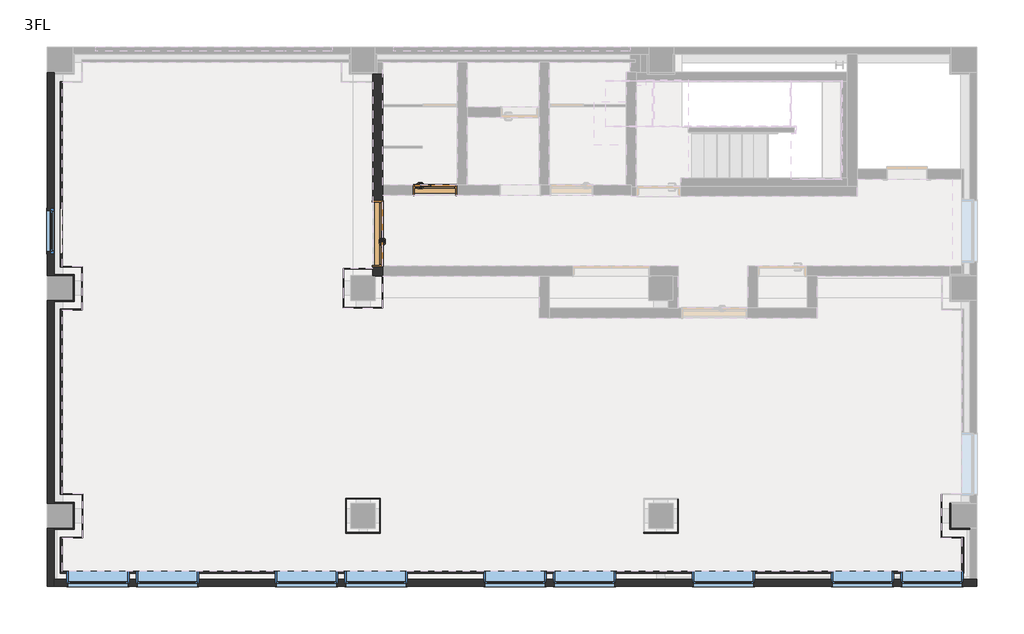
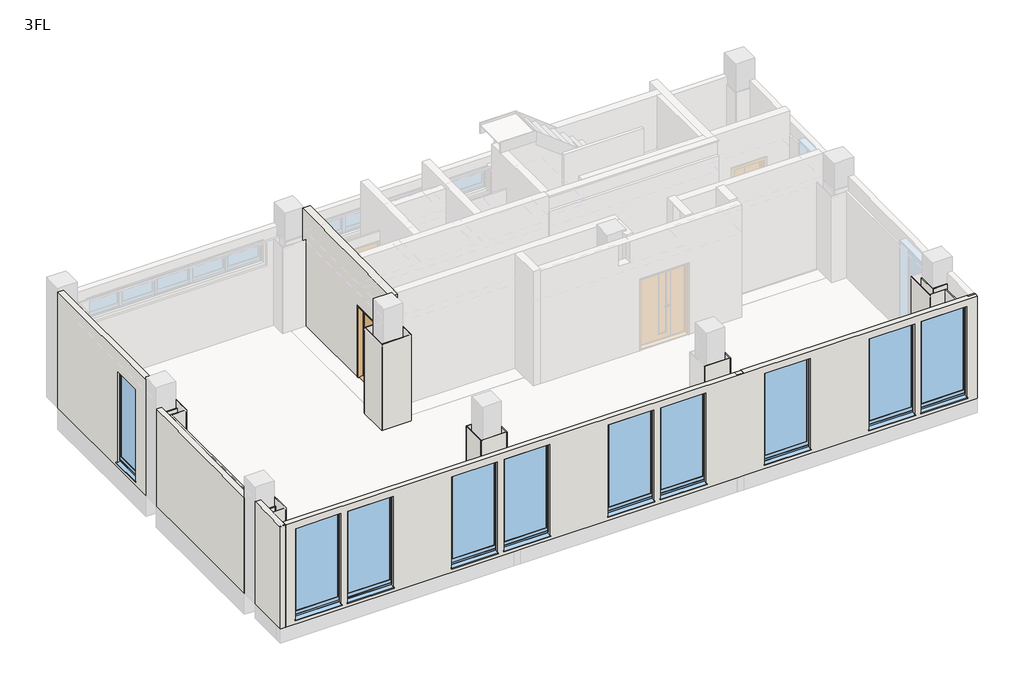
# One storey, part 1 of 4: 34 walls, 10 windows, 2 doors.
"""IFC4 building model written with IfcOpenShell, lengths in millimetres."""

from ifc_helpers import new_model, si_unit, frame, origin, place, context, project, spatial, polyline, outline, extrude, faceted_brep, transform, mapped, element, save
from components import door_c7ba6d99, door_a8025d8c, window_becbf3bb, window_02fdaeb4

model = new_model("IFC4")

# Units and contexts
model_context = context("Model", 3, world=origin())
ifc_project = project(units=[si_unit("LENGTHUNIT", "METRE", prefix="MILLI")], contexts=[model_context])

# Site, building, storey
site = spatial("IfcSite", under=ifc_project)
building = spatial("IfcBuilding", under=site)
storey = spatial("IfcBuildingStorey", under=building, Name="3FL", Elevation=6700.0)

# Doors
placement = place(None, origin())
door_shape = door_c7ba6d99(model_context)
element("IfcDoor", 1, ObjectType="140_片開扉_スリットガラリ付 : SD9_H2000W800", at=placement, inside=storey, context=model_context, shape_type="MappedRepresentation", body=[
    mapped(door_shape, transform((7540.0, 6565.5, 6700.0), x_axis=(1.0, 0.0, 0.0), y_axis=(0.0, 1.0, 0.0), z_axis=(0.0, 0.0, 1.0))),
])
door_2_shape = door_a8025d8c(model_context)
element("IfcDoor", 2, ObjectType="C_親子扉_スリット窓付_パネル : SD8_W1250XH2000", at=placement, inside=storey, context=model_context, shape_type="MappedRepresentation", body=[
    mapped(door_2_shape, transform((6390.0, 5687.5, 6700.0), x_axis=(0.0, 1.0, 0.0), y_axis=(-1.0, 0.0, 0.0), z_axis=(0.0, 0.0, 1.0))),
])

# Walls
element("IfcWall", 3, ObjectType="•_RC120+押出法ポリスチレンフォーム1種 t25", at=placement, inside=storey, context=model_context, shape_type="Brep", body=[
    faceted_brep([(-270.0, 4340.0, 6550.0), (-270.0, 250.0, 6550.0), (-270.0, 250.0, 9266.0848683), (-270.0, 4340.0, 9307.9360311), (-125.0, 250.0, 6550.0), (-125.0, 274.9999201, 6550.0), (-125.0, 4314.9999543, 6550.0), (-125.0, 4340.0, 6550.0), (-125.0, 4340.0, 9150.0), (-125.0, 4340.0, 9307.9360311), (-125.0, 250.0, 9266.0848683), (-125.0, 250.0, 9150.0)], [[[0, 1, 2, 3]], [[4, 5, 6, 7, 8, 9, 10, 11]], [[0, 7, 6, 5, 4, 1]], [[7, 0, 3, 9, 8]], [[1, 4, 11, 10, 2]], [[3, 2, 10, 9]]]),
    faceted_brep([(-270.0, -250.0, 6550.0), (-270.0, -1242.7, 6550.0), (-270.0, -1420.0, 6550.0), (-270.0, -1420.0, 9460.0), (-270.0, -1406.0137522, 9460.0), (-270.0, -1405.9027414, 9449.1512175), (-270.0, -250.0, 9460.9790595), (-125.0, -1420.0, 6550.0), (-125.0, -1275.0, 6550.0), (-125.0, -275.0000858, 6550.0), (-125.0, -250.0, 6550.0), (-125.0, -250.0, 9150.0), (-125.0, -250.0, 9460.9790595), (-125.0, -1405.9027414, 9449.1512175), (-125.0, -1406.0137522, 9460.0), (-125.0, -1420.0, 9460.0)], [[[0, 1, 2, 3, 4, 5, 6]], [[7, 8, 9, 10, 11, 12, 13, 14, 15]], [[7, 2, 1, 0, 10, 9, 8]], [[2, 7, 15, 3]], [[10, 0, 6, 12, 11]], [[13, 5, 4, 14]], [[5, 13, 12, 6]], [[4, 3, 15, 14]]]),
    faceted_brep([(-270.0, 8930.0, 9850.0), (-270.0, 8930.0, 6550.0), (-270.0, 4840.0, 6550.0), (-270.0, 4840.0, 9850.0), (-270.0, 5330.0, 6675.0), (-270.0, 6150.0, 6675.0), (-270.0, 6150.0, 6730.0), (-270.0, 6150.0, 9260.0), (-270.0, 5330.0, 9260.0), (-270.0, 5330.0, 6730.0), (-125.0, 8930.0, 6550.0), (-125.0, 8930.0, 9150.0), (-125.0, 8930.0, 9850.0), (-125.0, 4840.0, 9850.0), (-125.0, 4840.0, 9150.0), (-125.0, 4840.0, 6550.0), (-125.0, 4865.0, 6550.0), (-125.0, 8905.000056, 6550.0), (-125.0, 6200.0, 9310.0), (-125.0, 6200.0, 6745.0), (-125.0, 5280.0, 6745.0), (-125.0, 5280.0, 9310.0), (-140.0, 8930.0, 9850.0), (-140.0, 4840.0, 9850.0), (-210.0, 6200.0, 9310.0), (-210.0, 6200.0, 6675.0), (-140.0, 6200.0, 6675.0), (-140.0, 6200.0, 6745.0), (-140.0, 5280.0, 6745.0), (-140.0, 5280.0, 6675.0), (-210.0, 5280.0, 6675.0), (-210.0, 5280.0, 9310.0), (-210.0, 6150.0, 6675.0), (-210.0, 5330.0, 6675.0), (-210.0, 5330.0, 9260.0), (-210.0, 6150.0, 9260.0)], [[[0, 1, 2, 3], [4, 5, 6, 7, 8, 9]], [[10, 11, 12, 13, 14, 15, 16, 17], [18, 19, 20, 21]], [[1, 10, 17, 16, 15, 2]], [[12, 22, 0, 3, 23, 13]], [[24, 25, 26, 27, 19, 18]], [[28, 29, 30, 31, 21, 20]], [[27, 28, 20, 19]], [[31, 24, 18, 21]], [[26, 25, 32, 5, 4, 33, 30, 29]], [[25, 24, 31, 30, 33, 34, 35, 32]], [[27, 26, 29, 28]], [[5, 32, 35, 7, 6]], [[33, 4, 9, 8, 34]], [[35, 34, 8, 7]], [[12, 11, 10, 1, 0, 22]], [[15, 14, 13, 23, 3, 2]]]),
])
element("IfcWall", 4, ObjectType="•_RC120+押出法ポリスチレンフォーム1種 t25", at=placement, inside=storey, context=model_context, shape_type="Brep", body=[
    faceted_brep([(-125.0, -1420.0, 6550.0), (6000.0, -1420.0, 6550.0), (6180.0, -1420.0, 6550.0), (12000.0, -1420.0, 6550.0), (12180.0, -1420.0, 6550.0), (18450.0, -1420.0, 6550.0), (18450.0, -1420.0, 9460.0), (11961.9000006, -1420.0, 9460.0), (5987.1460725, -1420.0, 9460.0), (-125.0, -1420.0, 9460.0), (1360.0, -1420.0, 6675.0), (140.0, -1420.0, 6675.0), (140.0, -1420.0, 6730.0), (140.0, -1420.0, 9260.0), (1360.0, -1420.0, 9260.0), (1360.0, -1420.0, 6730.0), (2760.0, -1420.0, 6675.0), (1540.0, -1420.0, 6675.0), (1540.0, -1420.0, 9260.0), (2760.0, -1420.0, 9260.0), (5560.0, -1420.0, 6675.0), (4340.0, -1420.0, 6675.0), (4340.0, -1420.0, 9260.0), (5560.0, -1420.0, 9260.0), (6960.0, -1420.0, 6675.0), (5740.0, -1420.0, 6675.0), (5740.0, -1420.0, 9260.0), (6960.0, -1420.0, 9260.0), (9760.0, -1420.0, 6675.0), (8540.0, -1420.0, 6675.0), (8540.0, -1420.0, 9260.0), (9760.0, -1420.0, 9260.0), (11160.0, -1420.0, 6675.0), (9940.0, -1420.0, 6675.0), (9940.0, -1420.0, 9260.0), (11160.0, -1420.0, 9260.0), (16760.04, -1420.0, 6675.0), (15540.04, -1420.0, 6675.0), (15540.04, -1420.0, 9260.0), (16760.04, -1420.0, 9260.0), (18159.9997717, -1420.0, 6675.0), (16939.9997717, -1420.0, 6675.0), (16939.9997717, -1420.0, 9260.0), (18159.9997717, -1420.0, 9260.0), (13960.0, -1420.0, 6675.0), (12740.0, -1420.0, 6675.0), (12740.0, -1420.0, 9260.0), (13960.0, -1420.0, 9260.0), (18450.0, -1275.0, 6550.0), (18305.0, -1275.0, 6550.0), (-125.0, -1275.0, 6550.0), (-125.0, -1275.0, 9460.0), (12000.0, -1275.0, 9460.0), (12000.0, -1275.0, 9450.3844841), (12180.0, -1275.0, 9450.3844841), (12180.0, -1275.0, 9460.0), (18250.0, -1275.0, 9460.0), (18250.0, -1275.0, 9451.1960208), (18305.0, -1275.0, 9451.1960208), (18450.0, -1275.0, 9451.1960208), (1380.0, -1275.0, 9280.0), (120.0, -1275.0, 9280.0), (120.0, -1275.0, 6675.0), (1380.0, -1275.0, 6675.0), (1520.0, -1275.0, 9280.0), (1520.0, -1275.0, 6675.0), (2780.0, -1275.0, 6675.0), (2780.0, -1275.0, 9280.0), (4320.0, -1275.0, 9280.0), (4320.0, -1275.0, 6675.0), (5580.0, -1275.0, 6675.0), (5580.0, -1275.0, 9280.0), (5720.0, -1275.0, 9280.0), (5720.0, -1275.0, 6675.0), (6980.0, -1275.0, 6675.0), (6980.0, -1275.0, 9280.0), (8520.0, -1275.0, 9280.0), (8520.0, -1275.0, 6675.0), (9780.0, -1275.0, 6675.0), (9780.0, -1275.0, 9280.0), (9920.0, -1275.0, 9280.0), (9920.0, -1275.0, 6675.0), (11180.0, -1275.0, 6675.0), (11180.0, -1275.0, 9280.0), (15520.04, -1275.0, 9280.0), (15520.04, -1275.0, 6675.0), (16780.04, -1275.0, 6675.0), (16780.04, -1275.0, 9280.0), (16919.9997717, -1275.0, 9280.0), (16919.9997717, -1275.0, 6675.0), (18179.9997717, -1275.0, 6675.0), (18179.9997717, -1275.0, 9280.0), (12720.0, -1275.0, 9280.0), (12720.0, -1275.0, 6675.0), (13980.0, -1275.0, 6675.0), (13980.0, -1275.0, 9280.0), (-125.0, -1406.0137522, 9460.0), (1380.0, -1360.0, 9280.0), (120.0, -1360.0, 9280.0), (120.0, -1360.0, 6675.0), (1380.0, -1360.0, 6675.0), (140.0, -1360.0, 6675.0), (1360.0, -1360.0, 6675.0), (1360.0, -1360.0, 9260.0), (140.0, -1360.0, 9260.0), (1520.0, -1360.0, 6675.0), (1540.0, -1360.0, 6675.0), (2760.0, -1360.0, 6675.0), (2780.0, -1360.0, 6675.0), (1520.0, -1360.0, 9280.0), (2780.0, -1360.0, 9280.0), (2760.0, -1360.0, 9260.0), (1540.0, -1360.0, 9260.0), (4320.0, -1360.0, 6675.0), (4340.0, -1360.0, 6675.0), (5560.0, -1360.0, 6675.0), (5580.0, -1360.0, 6675.0), (4320.0, -1360.0, 9280.0), (5580.0, -1360.0, 9280.0), (5560.0, -1360.0, 9260.0), (4340.0, -1360.0, 9260.0), (5720.0, -1360.0, 6675.0), (5740.0, -1360.0, 6675.0), (6960.0, -1360.0, 6675.0), (6980.0, -1360.0, 6675.0), (5720.0, -1360.0, 9280.0), (6980.0, -1360.0, 9280.0), (6960.0, -1360.0, 9260.0), (5740.0, -1360.0, 9260.0), (8520.0, -1360.0, 6675.0), (8540.0, -1360.0, 6675.0), (9760.0, -1360.0, 6675.0), (9780.0, -1360.0, 6675.0), (8520.0, -1360.0, 9280.0), (9780.0, -1360.0, 9280.0), (9760.0, -1360.0, 9260.0), (8540.0, -1360.0, 9260.0), (9920.0, -1360.0, 6675.0), (9940.0, -1360.0, 6675.0), (11160.0, -1360.0, 6675.0), (11180.0, -1360.0, 6675.0), (9920.0, -1360.0, 9280.0), (11180.0, -1360.0, 9280.0), (11160.0, -1360.0, 9260.0), (9940.0, -1360.0, 9260.0), (15520.04, -1360.0, 6675.0), (15540.04, -1360.0, 6675.0), (16760.04, -1360.0, 6675.0), (16780.04, -1360.0, 6675.0), (15520.04, -1360.0, 9280.0), (16780.04, -1360.0, 9280.0), (16760.04, -1360.0, 9260.0), (15540.04, -1360.0, 9260.0), (16919.9997717, -1360.0, 6675.0), (16939.9997717, -1360.0, 6675.0), (18159.9997717, -1360.0, 6675.0), (18179.9997717, -1360.0, 6675.0), (16919.9997717, -1360.0, 9280.0), (18179.9997717, -1360.0, 9280.0), (18159.9997717, -1360.0, 9260.0), (16939.9997717, -1360.0, 9260.0), (12720.0, -1360.0, 6675.0), (12740.0, -1360.0, 6675.0), (13960.0, -1360.0, 6675.0), (13980.0, -1360.0, 6675.0), (12720.0, -1360.0, 9280.0), (13980.0, -1360.0, 9280.0), (13960.0, -1360.0, 9260.0), (12740.0, -1360.0, 9260.0), (12180.0, -1406.4091607, 9449.2147387), (12000.0, -1406.4091607, 9449.2147387), (12000.0, -1406.5051662, 9460.0), (12180.0, -1406.5051662, 9460.0), (18450.0, -1330.8043055, 9460.0), (18250.0, -1330.8043055, 9460.0), (18450.0, -1330.7112801, 9450.6421976), (18250.0, -1330.7112801, 9450.6421976)], [[[0, 1, 2, 3, 4, 5, 6, 7, 8, 9], [10, 11, 12, 13, 14, 15], [16, 17, 18, 19], [20, 21, 22, 23], [24, 25, 26, 27], [28, 29, 30, 31], [32, 33, 34, 35], [36, 37, 38, 39], [40, 41, 42, 43], [44, 45, 46, 47]], [[48, 49, 50, 51, 52, 53, 54, 55, 56, 57, 58, 59], [60, 61, 62, 63], [64, 65, 66, 67], [68, 69, 70, 71], [72, 73, 74, 75], [76, 77, 78, 79], [80, 81, 82, 83], [84, 85, 86, 87], [88, 89, 90, 91], [92, 93, 94, 95]], [[5, 4, 3, 2, 1, 0, 50, 49, 48]], [[50, 0, 9, 96, 51]], [[97, 98, 61, 60]], [[98, 99, 62, 61]], [[100, 97, 60, 63]], [[101, 11, 10, 102, 100, 63, 62, 99]], [[99, 98, 97, 100, 102, 103, 104, 101]], [[11, 101, 104, 13, 12]], [[102, 10, 15, 14, 103]], [[104, 103, 14, 13]], [[105, 106, 17, 16, 107, 108, 66, 65]], [[105, 109, 110, 108, 107, 111, 112, 106]], [[17, 106, 112, 18]], [[107, 16, 19, 111]], [[112, 111, 19, 18]], [[113, 114, 21, 20, 115, 116, 70, 69]], [[113, 117, 118, 116, 115, 119, 120, 114]], [[21, 114, 120, 22]], [[115, 20, 23, 119]], [[120, 119, 23, 22]], [[121, 122, 25, 24, 123, 124, 74, 73]], [[121, 125, 126, 124, 123, 127, 128, 122]], [[25, 122, 128, 26]], [[123, 24, 27, 127]], [[128, 127, 27, 26]], [[129, 130, 29, 28, 131, 132, 78, 77]], [[129, 133, 134, 132, 131, 135, 136, 130]], [[29, 130, 136, 30]], [[131, 28, 31, 135]], [[136, 135, 31, 30]], [[137, 138, 33, 32, 139, 140, 82, 81]], [[137, 141, 142, 140, 139, 143, 144, 138]], [[33, 138, 144, 34]], [[139, 32, 35, 143]], [[144, 143, 35, 34]], [[145, 146, 37, 36, 147, 148, 86, 85]], [[145, 149, 150, 148, 147, 151, 152, 146]], [[37, 146, 152, 38]], [[147, 36, 39, 151]], [[152, 151, 39, 38]], [[153, 154, 41, 40, 155, 156, 90, 89]], [[153, 157, 158, 156, 155, 159, 160, 154]], [[41, 154, 160, 42]], [[155, 40, 43, 159]], [[160, 159, 43, 42]], [[161, 162, 45, 44, 163, 164, 94, 93]], [[161, 165, 166, 164, 163, 167, 168, 162]], [[45, 162, 168, 46]], [[163, 44, 47, 167]], [[168, 167, 47, 46]], [[169, 170, 171, 172]], [[169, 172, 55, 54]], [[171, 170, 53, 52]], [[170, 169, 54, 53]], [[172, 171, 52, 51, 96, 9, 8, 7, 6, 173, 174, 56, 55]], [[175, 176, 174, 173]], [[174, 176, 57, 56]], [[176, 175, 59, 58, 57]], [[109, 105, 65, 64]], [[108, 110, 67, 66]], [[110, 109, 64, 67]], [[117, 113, 69, 68]], [[116, 118, 71, 70]], [[118, 117, 68, 71]], [[125, 121, 73, 72]], [[124, 126, 75, 74]], [[126, 125, 72, 75]], [[133, 129, 77, 76]], [[132, 134, 79, 78]], [[134, 133, 76, 79]], [[141, 137, 81, 80]], [[140, 142, 83, 82]], [[142, 141, 80, 83]], [[149, 145, 85, 84]], [[148, 150, 87, 86]], [[150, 149, 84, 87]], [[157, 153, 89, 88]], [[156, 158, 91, 90]], [[158, 157, 88, 91]], [[165, 161, 93, 92]], [[164, 166, 95, 94]], [[166, 165, 92, 95]], [[5, 48, 59, 175, 173, 6]]]),
])
element("IfcWall", 5, ObjectType="•RC30+12.5", at=placement, inside=storey, context=model_context, shape_type="Brep", body=[
    faceted_brep([(-10.0001232, -1160.0000822, 6550.0), (18190.0000006, -1160.0000822, 6550.0), (18190.0000006, -1160.0000822, 6745.0), (16919.9997717, -1160.0000822, 6745.0), (16919.9997717, -1160.0000822, 9150.0), (16780.04, -1160.0000822, 9150.0), (16780.04, -1160.0000822, 6745.0), (15520.04, -1160.0000822, 6745.0), (15520.04, -1160.0000822, 9150.0), (14010.0, -1160.0000822, 9150.0), (14010.0, -1160.0000822, 6745.0), (12690.0, -1160.0000822, 6745.0), (12690.0, -1160.0000822, 9150.0), (11180.0, -1160.0000822, 9150.0), (11180.0, -1160.0000822, 6745.0), (9920.0, -1160.0000822, 6745.0), (9920.0, -1160.0000822, 9150.0), (9780.0, -1160.0000822, 9150.0), (9780.0, -1160.0000822, 6745.0), (8520.0, -1160.0000822, 6745.0), (8520.0, -1160.0000822, 9150.0), (6980.0, -1160.0000822, 9150.0), (6980.0, -1160.0000822, 6745.0), (5720.0, -1160.0000822, 6745.0), (5720.0, -1160.0000822, 9150.0), (5580.0, -1160.0000822, 9150.0), (5580.0, -1160.0000822, 6745.0), (4320.0, -1160.0000822, 6745.0), (4320.0, -1160.0000822, 9150.0), (2780.0, -1160.0000822, 9150.0), (2780.0, -1160.0000822, 6745.0), (1520.0, -1160.0000822, 6745.0), (1520.0, -1160.0000822, 9150.0), (1380.0, -1160.0000822, 9150.0), (1380.0, -1160.0000822, 6745.0), (120.0, -1160.0000822, 6745.0), (120.0, -1160.0000822, 9150.0), (-10.0001232, -1160.0000822, 9150.0), (18190.0000006, -1117.5000822, 6550.0), (18147.5000006, -1117.5000822, 6550.0), (32.4998768, -1117.5000822, 6550.0), (-10.0001232, -1117.5000822, 6550.0), (-10.0001232, -1117.5000822, 9150.0), (32.4998768, -1117.5000822, 9150.0), (120.0, -1117.5000822, 9150.0), (120.0, -1117.5000822, 6745.0), (1380.0, -1117.5000822, 6745.0), (1380.0, -1117.5000822, 9150.0), (1520.0, -1117.5000822, 9150.0), (1520.0, -1117.5000822, 6745.0), (2780.0, -1117.5000822, 6745.0), (2780.0, -1117.5000822, 9150.0), (4320.0, -1117.5000822, 9150.0), (4320.0, -1117.5000822, 6745.0), (5580.0, -1117.5000822, 6745.0), (5580.0, -1117.5000822, 9150.0), (5720.0, -1117.5000822, 9150.0), (5720.0, -1117.5000822, 6745.0), (6980.0, -1117.5000822, 6745.0), (6980.0, -1117.5000822, 9150.0), (8520.0, -1117.5000822, 9150.0), (8520.0, -1117.5000822, 6745.0), (9780.0, -1117.5000822, 6745.0), (9780.0, -1117.5000822, 9150.0), (9920.0, -1117.5000822, 9150.0), (9920.0, -1117.5000822, 6745.0), (11180.0, -1117.5000822, 6745.0), (11180.0, -1117.5000822, 9150.0), (12690.0, -1117.5000822, 9150.0), (12690.0, -1117.5000822, 6745.0), (14010.0, -1117.5000822, 6745.0), (14010.0, -1117.5000822, 9150.0), (15520.04, -1117.5000822, 9150.0), (15520.04, -1117.5000822, 6745.0), (16780.04, -1117.5000822, 6745.0), (16780.04, -1117.5000822, 9150.0), (16919.9997717, -1117.5000822, 9150.0), (16919.9997717, -1117.5000822, 6745.0), (18190.0000006, -1117.5000822, 6745.0)], [[[0, 1, 2, 3, 4, 5, 6, 7, 8, 9, 10, 11, 12, 13, 14, 15, 16, 17, 18, 19, 20, 21, 22, 23, 24, 25, 26, 27, 28, 29, 30, 31, 32, 33, 34, 35, 36, 37]], [[38, 39, 40, 41, 42, 43, 44, 45, 46, 47, 48, 49, 50, 51, 52, 53, 54, 55, 56, 57, 58, 59, 60, 61, 62, 63, 64, 65, 66, 67, 68, 69, 70, 71, 72, 73, 74, 75, 76, 77, 78]], [[1, 0, 41, 40, 39, 38]], [[42, 37, 36, 44, 43]], [[47, 33, 32, 48]], [[51, 29, 28, 52]], [[55, 25, 24, 56]], [[59, 21, 20, 60]], [[63, 17, 16, 64]], [[67, 13, 12, 68]], [[8, 72, 71, 9]], [[75, 5, 4, 76]], [[0, 37, 42, 41]], [[34, 46, 45, 35]], [[35, 45, 44, 36]], [[46, 34, 33, 47]], [[30, 50, 49, 31]], [[31, 49, 48, 32]], [[50, 30, 29, 51]], [[26, 54, 53, 27]], [[27, 53, 52, 28]], [[54, 26, 25, 55]], [[22, 58, 57, 23]], [[23, 57, 56, 24]], [[58, 22, 21, 59]], [[18, 62, 61, 19]], [[19, 61, 60, 20]], [[62, 18, 17, 63]], [[14, 66, 65, 15]], [[15, 65, 64, 16]], [[66, 14, 13, 67]], [[6, 74, 73, 7]], [[7, 73, 72, 8]], [[74, 6, 5, 75]], [[77, 3, 2, 78]], [[3, 77, 76, 4]], [[10, 70, 69, 11]], [[11, 69, 68, 12]], [[70, 10, 9, 71]], [[1, 38, 78, 2]]]),
])
element("IfcWall", 6, ObjectType="•RC30+12.5", at=placement, inside=storey, context=model_context, shape_type="Brep", body=[
    faceted_brep([(-10.0, 4164.0, 6550.0), (-10.0, 429.9996399, 6550.0), (-10.0, 429.9996399, 9150.0), (-10.0, 4164.0, 9150.0), (32.5, 4164.0, 6550.0), (32.5, 4164.0, 9150.0), (32.5, 4151.5, 9150.0), (32.5, 442.4996399, 9150.0), (32.5, 429.9996399, 9150.0), (32.5, 429.9996399, 6550.0), (32.5, 442.4996399, 6550.0), (32.5, 4151.5, 6550.0)], [[[0, 1, 2, 3]], [[4, 5, 6, 7, 8, 9, 10, 11]], [[1, 0, 4, 11, 10, 9]], [[3, 2, 8, 7, 6, 5]], [[0, 3, 5, 4]], [[2, 1, 9, 8]]]),
])
element("IfcWall", 7, ObjectType="•RC30+12.5", at=placement, inside=storey, context=model_context, shape_type="Brep", body=[
    faceted_brep([(-10.0001232, -429.9999706, 6550.0), (-10.0001232, -1117.5000822, 6550.0), (-10.0001232, -1117.5000822, 9150.0), (-10.0001232, -429.9999706, 9150.0), (32.4998768, -429.9999706, 6550.0), (32.4998768, -429.9999706, 9150.0), (32.4998768, -442.4999706, 9150.0), (32.4998768, -1117.5000822, 9150.0), (32.4998768, -1117.5000822, 6550.0), (32.4998768, -442.4999706, 6550.0)], [[[0, 1, 2, 3]], [[4, 5, 6, 7, 8, 9]], [[1, 0, 4, 9, 8]], [[3, 2, 7, 6, 5]], [[2, 1, 8, 7]], [[0, 3, 5, 4]]]),
])
element("IfcWall", 8, ObjectType="•RC30+12.5", at=placement, inside=storey, context=model_context, shape_type="Brep", body=[
    faceted_brep([(32.4999974, 5016.0, 6550.0), (32.4999974, 5028.5, 6550.0), (32.4999974, 8741.5, 6550.0), (32.4999974, 8754.0, 6550.0), (32.4999974, 8754.0, 9150.0), (32.4999974, 8741.5, 9150.0), (32.4999974, 6200.0, 9150.0), (32.4999974, 6200.0, 6745.0), (32.4999974, 5280.0, 6745.0), (32.4999974, 5280.0, 9150.0), (32.4999974, 5028.5, 9150.0), (32.4999974, 5016.0, 9150.0), (-10.0000026, 8754.0, 6550.0), (-10.0000026, 5016.0, 6550.0), (-10.0000026, 5016.0, 9150.0), (-10.0000026, 5280.0, 9150.0), (-10.0000026, 5280.0, 6745.0), (-10.0000026, 6200.0, 6745.0), (-10.0000026, 6200.0, 9150.0), (-10.0000026, 8754.0, 9150.0)], [[[0, 1, 2, 3, 4, 5, 6, 7, 8, 9, 10, 11]], [[12, 13, 14, 15, 16, 17, 18, 19]], [[3, 2, 1, 0, 13, 12]], [[14, 11, 10, 9, 15]], [[4, 19, 18, 6, 5]], [[0, 11, 14, 13]], [[4, 3, 12, 19]], [[7, 17, 16, 8]], [[8, 16, 15, 9]], [[17, 7, 6, 18]]]),
])
element("IfcWall", 9, ObjectType="•RC30+12.5", at=placement, inside=storey, context=model_context, shape_type="Brep", body=[
    faceted_brep([(18190.0000006, -1117.5000822, 6550.0), (18190.0000006, -430.0001201, 6550.0), (18190.0000006, -430.0001201, 9150.0), (18190.0000006, -1117.5000822, 9150.0), (18190.0000006, -1117.5000822, 6745.0), (18147.5000006, -1117.5000822, 6550.0), (18147.5000006, -1117.5000822, 9150.0), (18147.5000006, -442.5001201, 9150.0), (18147.5000006, -430.0001201, 9150.0), (18147.5000006, -430.0001201, 6550.0), (18147.5000006, -442.5001201, 6550.0)], [[[0, 1, 2, 3, 4]], [[5, 6, 7, 8, 9, 10]], [[1, 0, 5, 10, 9]], [[3, 2, 8, 7, 6]], [[2, 1, 9, 8]], [[0, 4, 3, 6, 5]]]),
])
element("IfcWall", 10, ObjectType="•t=25mm", at=placement, inside=storey, context=model_context, shape_type="Brep", body=[
    faceted_brep([(-125.0, 249.9999201, 6550.0), (250.0000575, 249.9999201, 6550.0), (275.0000575, 249.9999201, 6550.0), (275.0000575, 249.9999201, 9150.0), (250.0000575, 249.9999201, 9150.0), (-125.0, 249.9999201, 9150.0), (-125.0, 274.9999201, 6550.0), (-125.0, 274.9999201, 9150.0), (275.0000575, 274.9999201, 9150.0), (275.0000575, 274.9999201, 6550.0)], [[[0, 1, 2, 3, 4, 5]], [[6, 7, 8, 9]], [[2, 1, 0, 6, 9]], [[5, 4, 3, 8, 7]], [[0, 5, 7, 6]], [[3, 2, 9, 8]]]),
])
element("IfcWall", 11, ObjectType="•t=25mm", at=placement, inside=storey, context=model_context, shape_type="Brep", body=[
    faceted_brep([(250.0000575, 249.9999201, 6550.0), (250.0000575, -250.0000858, 6550.0), (250.0000575, -275.0000858, 6550.0), (250.0000575, -275.0000858, 9150.0), (250.0000575, -250.0000858, 9150.0), (250.0000575, 249.9999201, 9150.0), (275.0000575, 249.9999201, 6550.0), (275.0000575, 249.9999201, 9150.0), (275.0000575, -275.0000858, 9150.0), (275.0000575, -275.0000858, 6550.0)], [[[0, 1, 2, 3, 4, 5]], [[6, 7, 8, 9]], [[2, 1, 0, 6, 9]], [[5, 4, 3, 8, 7]], [[0, 5, 7, 6]], [[3, 2, 9, 8]]]),
])
element("IfcWall", 12, ObjectType="•t=25mm", at=placement, inside=storey, context=model_context, shape_type="SweptSolid", body=[
    extrude(outline(polyline([(-125.0, -250.0000858), (250.0000575, -250.0000858), (250.0000575, -275.0000858), (-125.0, -275.0000858), (-125.0, -250.0000858)])), frame((0.0, 0.0, 6550.0), z_axis=(0.0, 0.0, 1.0), x_axis=(1.0, 0.0, 0.0)), (0.0, 0.0, 1.0), 2600.0),
])
element("IfcWall", 13, ObjectType="•t=25mm", at=placement, inside=storey, context=model_context, shape_type="Brep", body=[
    faceted_brep([(-125.0, 4314.9999543, 6550.0), (275.0, 4314.9999543, 6550.0), (275.0, 4314.9999543, 9150.0), (-125.0, 4314.9999543, 9150.0), (-125.0, 4339.9999543, 6550.0), (-125.0, 4339.9999543, 9150.0), (250.0, 4339.9999543, 9150.0), (275.0, 4339.9999543, 9150.0), (275.0, 4339.9999543, 6550.0), (250.0, 4339.9999543, 6550.0)], [[[0, 1, 2, 3]], [[4, 5, 6, 7, 8, 9]], [[1, 0, 4, 9, 8]], [[3, 2, 7, 6, 5]], [[0, 3, 5, 4]], [[2, 1, 8, 7]]]),
])
element("IfcWall", 14, ObjectType="•t=25mm", at=placement, inside=storey, context=model_context, shape_type="Brep", body=[
    faceted_brep([(275.0, 4339.9999543, 6550.0), (275.0, 4865.0, 6550.0), (275.0, 4865.0, 9150.0), (275.0, 4339.9999543, 9150.0), (250.0, 4339.9999543, 6550.0), (250.0, 4339.9999543, 9150.0), (250.0, 4840.0, 9150.0), (250.0, 4865.0, 9150.0), (250.0, 4865.0, 6550.0), (250.0, 4840.0, 6550.0)], [[[0, 1, 2, 3]], [[4, 5, 6, 7, 8, 9]], [[1, 0, 4, 9, 8]], [[3, 2, 7, 6, 5]], [[0, 3, 5, 4]], [[2, 1, 8, 7]]]),
])
element("IfcWall", 15, ObjectType="•t=25mm", at=placement, inside=storey, context=model_context, shape_type="SweptSolid", body=[
    extrude(outline(polyline([(-125.0, 4865.0), (250.0, 4865.0), (250.0, 4840.0), (-125.0, 4840.0), (-125.0, 4865.0)])), frame((0.0, 0.0, 6550.0), z_axis=(0.0, 0.0, 1.0), x_axis=(1.0, 0.0, 0.0)), (0.0, 0.0, 1.0), 2600.0),
])
element("IfcWall", 16, ObjectType="•t=25mm", at=placement, inside=storey, context=model_context, shape_type="Brep", body=[
    faceted_brep([(17904.999971, 249.9999009, 6550.0), (17904.999971, -275.0000644, 6550.0), (17904.999971, -275.0000644, 9150.0), (17904.999971, 249.9999009, 9150.0), (17929.999971, 249.9999009, 6550.0), (17929.999971, 249.9999009, 9150.0), (17929.999971, -250.0000644, 9150.0), (17929.999971, -275.0000644, 9150.0), (17929.999971, -275.0000644, 6550.0), (17929.999971, -250.0000644, 6550.0)], [[[0, 1, 2, 3]], [[4, 5, 6, 7, 8, 9]], [[1, 0, 4, 9, 8]], [[3, 2, 7, 6, 5]], [[0, 3, 5, 4]], [[2, 1, 8, 7]]]),
])
element("IfcWall", 17, ObjectType="•t=25mm", at=placement, inside=storey, context=model_context, shape_type="SweptSolid", body=[
    extrude(outline(polyline([(18305.0, -275.0000644), (17929.999971, -275.0000644), (17929.999971, -250.0000644), (18305.0, -250.0000644), (18305.0, -275.0000644)])), frame((0.0, 0.0, 6550.0), z_axis=(0.0, 0.0, 1.0), x_axis=(1.0, 0.0, 0.0)), (0.0, 0.0, 1.0), 2600.0),
])
element("IfcWall", 18, ObjectType="•PB12.5", at=placement, inside=storey, context=model_context, shape_type="Brep", body=[
    faceted_brep([(32.4999974, 5016.0, 6550.0), (426.0, 5016.0, 6550.0), (438.5, 5016.0, 6550.0), (438.5, 5016.0, 9150.0), (426.0, 5016.0, 9150.0), (32.4999974, 5016.0, 9150.0), (32.4999974, 5028.5, 6550.0), (32.4999974, 5028.5, 9150.0), (438.5, 5028.5, 9150.0), (438.5, 5028.5, 6550.0)], [[[0, 1, 2, 3, 4, 5]], [[6, 7, 8, 9]], [[2, 1, 0, 6, 9]], [[5, 4, 3, 8, 7]], [[0, 5, 7, 6]], [[3, 2, 9, 8]]]),
])
element("IfcWall", 19, ObjectType="•PB12.5", at=placement, inside=storey, context=model_context, shape_type="Brep", body=[
    faceted_brep([(426.0, 5016.0, 6550.0), (426.0, 4164.0, 6550.0), (426.0, 4151.5, 6550.0), (426.0, 4151.5, 9150.0), (426.0, 4164.0, 9150.0), (426.0, 5016.0, 9150.0), (438.5, 5016.0, 6550.0), (438.5, 5016.0, 9150.0), (438.5, 4151.5, 9150.0), (438.5, 4151.5, 6550.0)], [[[0, 1, 2, 3, 4, 5]], [[6, 7, 8, 9]], [[2, 1, 0, 6, 9]], [[5, 4, 3, 8, 7]], [[0, 5, 7, 6]], [[3, 2, 9, 8]]]),
])
element("IfcWall", 20, ObjectType="•PB12.5", at=placement, inside=storey, context=model_context, shape_type="SweptSolid", body=[
    extrude(outline(polyline([(32.5, 4164.0), (426.0, 4164.0), (426.0, 4151.5), (32.5, 4151.5), (32.5, 4164.0)])), frame((0.0, 0.0, 6550.0), z_axis=(0.0, 0.0, 1.0), x_axis=(1.0, 0.0, 0.0)), (0.0, 0.0, 1.0), 2600.0),
])
element("IfcWall", 21, ObjectType="•PB12.5", at=placement, inside=storey, context=model_context, shape_type="Brep", body=[
    faceted_brep([(32.5, 429.9996399, 6550.0), (436.0, 429.9996399, 6550.0), (448.5, 429.9996399, 6550.0), (448.5, 429.9996399, 9150.0), (436.0, 429.9996399, 9150.0), (32.5, 429.9996399, 9150.0), (32.5, 442.4996399, 6550.0), (32.5, 442.4996399, 9150.0), (448.5, 442.4996399, 9150.0), (448.5, 442.4996399, 6550.0)], [[[0, 1, 2, 3, 4, 5]], [[6, 7, 8, 9]], [[2, 1, 0, 6, 9]], [[5, 4, 3, 8, 7]], [[0, 5, 7, 6]], [[3, 2, 9, 8]]]),
])
element("IfcWall", 22, ObjectType="•PB12.5", at=placement, inside=storey, context=model_context, shape_type="Brep", body=[
    faceted_brep([(436.0, 429.9996399, 6550.0), (436.0, -429.9999706, 6550.0), (436.0, -442.4999706, 6550.0), (436.0, -442.4999706, 9150.0), (436.0, -429.9999706, 9150.0), (436.0, 429.9996399, 9150.0), (448.5, 429.9996399, 6550.0), (448.5, 429.9996399, 9150.0), (448.5, -442.4999706, 9150.0), (448.5, -442.4999706, 6550.0)], [[[0, 1, 2, 3, 4, 5]], [[6, 7, 8, 9]], [[2, 1, 0, 6, 9]], [[5, 4, 3, 8, 7]], [[0, 5, 7, 6]], [[3, 2, 9, 8]]]),
])
element("IfcWall", 23, ObjectType="•PB12.5", at=placement, inside=storey, context=model_context, shape_type="SweptSolid", body=[
    extrude(outline(polyline([(32.4998768, -429.9999706), (436.0, -429.9999706), (436.0, -442.4999706), (32.4998768, -442.4999706), (32.4998768, -429.9999706)])), frame((0.0, 0.0, 6550.0), z_axis=(0.0, 0.0, 1.0), x_axis=(1.0, 0.0, 0.0)), (0.0, 0.0, 1.0), 2600.0),
])
element("IfcWall", 24, ObjectType="•PB12.5", at=placement, inside=storey, context=model_context, shape_type="Brep", body=[
    faceted_brep([(17731.5010313, 429.999689, 6550.0), (17731.5010313, -442.5001201, 6550.0), (17731.5010313, -442.5001201, 9150.0), (17731.5010313, 429.999689, 9150.0), (17744.0010313, 429.999689, 6550.0), (17744.0010313, 429.999689, 9150.0), (17744.0010313, -430.0001201, 9150.0), (17744.0010313, -442.5001201, 9150.0), (17744.0010313, -442.5001201, 6550.0), (17744.0010313, -430.0001201, 6550.0)], [[[0, 1, 2, 3]], [[4, 5, 6, 7, 8, 9]], [[1, 0, 4, 9, 8]], [[3, 2, 7, 6, 5]], [[0, 3, 5, 4]], [[2, 1, 8, 7]]]),
])
element("IfcWall", 25, ObjectType="•PB12.5", at=placement, inside=storey, context=model_context, shape_type="SweptSolid", body=[
    extrude(outline(polyline([(18147.5000006, -442.5001201), (17744.0010313, -442.5001201), (17744.0010313, -430.0001201), (18147.5000006, -430.0001201), (18147.5000006, -442.5001201)])), frame((0.0, 0.0, 6550.0), z_axis=(0.0, 0.0, 1.0), x_axis=(1.0, 0.0, 0.0)), (0.0, 0.0, 1.0), 2600.0),
])
element("IfcWall", 26, ObjectType="•RC200", at=placement, inside=storey, context=model_context, shape_type="Brep", body=[
    faceted_brep([(6290.0, 8905.0000823, 6690.0), (6290.0, 8754.0, 6690.0), (6290.0, 8741.5, 6690.0), (6290.0, 6352.5, 6690.0), (6290.0, 6352.5, 8740.0), (6290.0, 5022.5, 8740.0), (6290.0, 5022.5, 6690.0), (6290.0, 4988.5, 6690.0), (6290.0, 4976.0, 6690.0), (6290.0, 4840.0, 6690.0), (6290.0, 4840.0, 9912.7493245), (6290.0, 8905.0000823, 9953.9003588), (6490.0, 6352.5, 6690.0), (6490.0, 6465.5, 6690.0), (6490.0, 6665.5, 6690.0), (6490.0, 8905.0000823, 6690.0), (6490.0, 8905.0000823, 9953.9003588), (6490.0, 4830.0, 9912.648092), (6490.0, 4830.0, 9150.0), (6490.0, 4830.0, 6690.0), (6490.0, 5022.5, 6690.0), (6490.0, 5022.5, 8740.0), (6490.0, 6352.5, 8740.0), (6364.9999033, 8905.0000823, 6690.0), (6340.0, 4840.0, 6690.0), (6340.0, 4840.0, 9912.7493245), (6340.0, 4830.0, 6690.0), (6340.0, 4830.0, 9912.648092), (6477.4999994, 4830.0, 6690.0)], [[[0, 1, 2, 3, 4, 5, 6, 7, 8, 9, 10, 11]], [[12, 13, 14, 15, 16, 17, 18, 19, 20, 21, 22]], [[15, 23, 0, 11, 16]], [[9, 24, 25, 10]], [[24, 26, 27, 25]], [[26, 28, 19, 18, 17, 27]], [[3, 2, 1, 0, 23, 15, 14, 13, 12]], [[24, 9, 8, 7, 6, 20, 19, 28, 26]], [[5, 21, 20, 6]], [[22, 4, 3, 12]], [[5, 4, 22, 21]], [[11, 10, 25, 27, 17, 16]]]),
])
element("IfcWall", 27, ObjectType="•PB12.5", at=placement, inside=storey, context=model_context, shape_type="Brep", body=[
    faceted_brep([(5687.4999426, 4988.5, 9150.0), (6290.0, 4988.5, 9150.0), (6290.0, 4988.5, 6690.0), (5890.0, 4988.5, 6690.0), (5890.0, 4988.5, 6550.0), (5687.4999426, 4988.5, 6550.0), (6290.0, 4976.0, 9150.0), (5699.9999426, 4976.0, 9150.0), (5687.4999426, 4976.0, 9150.0), (5687.4999426, 4976.0, 6550.0), (5699.9999426, 4976.0, 6550.0), (5890.0, 4976.0, 6550.0), (5890.0, 4976.0, 6690.0), (6290.0, 4976.0, 6690.0)], [[[0, 1, 2, 3, 4, 5]], [[6, 7, 8, 9, 10, 11, 12, 13]], [[9, 5, 4, 11, 10]], [[1, 0, 8, 7, 6]], [[1, 6, 13, 2]], [[0, 5, 9, 8]], [[12, 3, 2, 13]], [[3, 12, 11, 4]]]),
])
element("IfcWall", 28, ObjectType="•PB12.5", at=placement, inside=storey, context=model_context, shape_type="Brep", body=[
    faceted_brep([(5687.4999426, 4976.0, 6550.0), (5687.4999426, 4187.5000823, 6550.0), (5687.4999426, 4187.5000823, 9150.0), (5687.4999426, 4976.0, 9150.0), (5699.9999426, 4976.0, 6550.0), (5699.9999426, 4976.0, 9150.0), (5699.9999426, 4200.0000823, 9150.0), (5699.9999426, 4187.5000823, 9150.0), (5699.9999426, 4187.5000823, 6550.0), (5699.9999426, 4200.0000823, 6550.0)], [[[0, 1, 2, 3]], [[4, 5, 6, 7, 8, 9]], [[1, 0, 4, 9, 8]], [[3, 2, 7, 6, 5]], [[0, 3, 5, 4]], [[2, 1, 8, 7]]]),
])
element("IfcWall", 29, ObjectType="•PB12.5", at=placement, inside=storey, context=model_context, shape_type="Brep", body=[
    faceted_brep([(5699.9999426, 4187.5000823, 6550.0), (6489.9999994, 4187.5000823, 6550.0), (6489.9999994, 4187.5000823, 9150.0), (5699.9999426, 4187.5000823, 9150.0), (5699.9999426, 4200.0000823, 6550.0), (5699.9999426, 4200.0000823, 9150.0), (6477.4999994, 4200.0000823, 9150.0), (6489.9999994, 4200.0000823, 9150.0), (6489.9999994, 4200.0000823, 6550.0), (6477.4999994, 4200.0000823, 6550.0)], [[[0, 1, 2, 3]], [[4, 5, 6, 7, 8, 9]], [[1, 0, 4, 9, 8]], [[3, 2, 7, 6, 5]], [[0, 3, 5, 4]], [[2, 1, 8, 7]]]),
])
element("IfcWall", 30, ObjectType="•PB12.5", at=placement, inside=storey, context=model_context, shape_type="Brep", body=[
    faceted_brep([(6489.9999994, 4830.0, 9150.0), (6489.9999994, 4200.0000823, 9150.0), (6489.9999994, 4200.0000823, 6550.0), (6489.9999994, 4390.0, 6550.0), (6489.9999994, 4390.0, 6690.0), (6489.9999994, 4830.0, 6690.0), (6489.9999994, 4830.0, 6700.0), (6477.4999994, 4200.0000823, 9150.0), (6477.4999994, 4830.0, 9150.0), (6477.4999994, 4830.0, 6690.0), (6477.4999994, 4390.0, 6690.0), (6477.4999994, 4390.0, 6550.0), (6477.4999994, 4200.0000823, 6550.0)], [[[0, 1, 2, 3, 4, 5, 6]], [[7, 8, 9, 10, 11, 12]], [[2, 12, 11, 3]], [[1, 0, 8, 7]], [[2, 1, 7, 12]], [[8, 0, 6, 5, 9]], [[4, 10, 9, 5]], [[10, 4, 3, 11]]]),
])
element("IfcWall", 31, ObjectType="•PB12.5", at=placement, inside=storey, context=model_context, shape_type="Brep", body=[
    faceted_brep([(5740.0, 337.5, 6550.0), (5752.5, 337.5, 6550.0), (6427.5, 337.5, 6550.0), (6440.0, 337.5, 6550.0), (6440.0, 337.5, 9150.0), (6427.5, 337.5, 9150.0), (5752.5, 337.5, 9150.0), (5740.0, 337.5, 9150.0), (5740.0, 350.0, 6550.0), (5740.0, 350.0, 9150.0), (6440.0, 350.0, 9150.0), (6440.0, 350.0, 6550.0)], [[[0, 1, 2, 3, 4, 5, 6, 7]], [[8, 9, 10, 11]], [[3, 2, 1, 0, 8, 11]], [[7, 6, 5, 4, 10, 9]], [[4, 3, 11, 10]], [[0, 7, 9, 8]]]),
])
element("IfcWall", 32, ObjectType="•PB12.5", at=placement, inside=storey, context=model_context, shape_type="Brep", body=[
    faceted_brep([(6427.5, 337.5, 6550.0), (6427.5, -337.5, 6550.0), (6427.5, -350.0, 6550.0), (6427.5, -350.0, 9150.0), (6427.5, -337.5, 9150.0), (6427.5, 337.5, 9150.0), (6440.0, 337.5, 6550.0), (6440.0, 337.5, 9150.0), (6440.0, -350.0, 9150.0), (6440.0, -350.0, 6550.0)], [[[0, 1, 2, 3, 4, 5]], [[6, 7, 8, 9]], [[2, 1, 0, 6, 9]], [[5, 4, 3, 8, 7]], [[0, 5, 7, 6]], [[3, 2, 9, 8]]]),
])
element("IfcWall", 33, ObjectType="•PB12.5", at=placement, inside=storey, context=model_context, shape_type="Brep", body=[
    faceted_brep([(6427.5, -337.5, 6550.0), (5752.5, -337.5, 6550.0), (5740.0, -337.5, 6550.0), (5740.0, -337.5, 9150.0), (5752.5, -337.5, 9150.0), (6427.5, -337.5, 9150.0), (6427.5, -350.0, 6550.0), (6427.5, -350.0, 9150.0), (5740.0, -350.0, 9150.0), (5740.0, -350.0, 6550.0)], [[[0, 1, 2, 3, 4, 5]], [[6, 7, 8, 9]], [[2, 1, 0, 6, 9]], [[5, 4, 3, 8, 7]], [[0, 5, 7, 6]], [[3, 2, 9, 8]]]),
])
element("IfcWall", 34, ObjectType="•PB12.5", at=placement, inside=storey, context=model_context, shape_type="SweptSolid", body=[
    extrude(outline(polyline([(5752.5, 337.5), (5752.5, -337.5), (5740.0, -337.5), (5740.0, 337.5), (5752.5, 337.5)])), frame((0.0, 0.0, 6550.0), z_axis=(0.0, 0.0, 1.0), x_axis=(1.0, 0.0, 0.0)), (0.0, 0.0, 1.0), 2600.0),
])
element("IfcWall", 35, ObjectType="•PB12.5", at=placement, inside=storey, context=model_context, shape_type="Brep", body=[
    faceted_brep([(12426.0, 336.0, 6550.0), (12426.0, -336.0, 6550.0), (12426.0, -348.5, 6550.0), (12426.0, -348.5, 9150.0), (12426.0, -336.0, 9150.0), (12426.0, 336.0, 9150.0), (12438.5, 336.0, 6550.0), (12438.5, 336.0, 9150.0), (12438.5, -348.5, 9150.0), (12438.5, -348.5, 6550.0)], [[[0, 1, 2, 3, 4, 5]], [[6, 7, 8, 9]], [[2, 1, 0, 6, 9]], [[5, 4, 3, 8, 7]], [[0, 5, 7, 6]], [[3, 2, 9, 8]]]),
])
element("IfcWall", 36, ObjectType="•PB12.5", at=placement, inside=storey, context=model_context, shape_type="Brep", body=[
    faceted_brep([(12426.0, -336.0, 6550.0), (11754.0, -336.0, 6550.0), (11741.5, -336.0, 6550.0), (11741.5, -336.0, 9150.0), (11754.0, -336.0, 9150.0), (12426.0, -336.0, 9150.0), (12426.0, -348.5, 6550.0), (12426.0, -348.5, 9150.0), (11741.5, -348.5, 9150.0), (11741.5, -348.5, 6550.0)], [[[0, 1, 2, 3, 4, 5]], [[6, 7, 8, 9]], [[2, 1, 0, 6, 9]], [[5, 4, 3, 8, 7]], [[0, 5, 7, 6]], [[3, 2, 9, 8]]]),
])

# Windows
window_shape = window_becbf3bb(model_context)
element("IfcWindow", 37, ObjectType="380_片開窓_01 : AW6-H2470W800", at=placement, inside=storey, context=model_context, shape_type="MappedRepresentation", body=[
    mapped(window_shape, transform((-197.5, 5740.0, 5880.0), x_axis=(0.0, 1.0, 0.0), y_axis=(-1.0, 0.0, 0.0), z_axis=(0.0, 0.0, 1.0))),
])
window_2_shape = window_02fdaeb4(model_context)
element("IfcWindow", 38, ObjectType="380_片開窓_01 : AW5-H2470W1200", at=placement, inside=storey, context=model_context, shape_type="MappedRepresentation", body=[
    mapped(window_2_shape, transform((750.0, -1347.5, 5880.0), x_axis=(-1.0, 0.0, 0.0), y_axis=(0.0, -1.0, 0.0), z_axis=(0.0, 0.0, 1.0))),
])
element("IfcWindow", 39, ObjectType="380_片開窓_01 : AW5-H2470W1200", at=placement, inside=storey, context=model_context, shape_type="MappedRepresentation", body=[
    mapped(window_2_shape, transform((2150.0, -1347.5, 5880.0), x_axis=(-1.0, 0.0, 0.0), y_axis=(0.0, -1.0, 0.0), z_axis=(0.0, 0.0, 1.0))),
])
element("IfcWindow", 40, ObjectType="380_片開窓_01 : AW5-H2470W1200", at=placement, inside=storey, context=model_context, shape_type="MappedRepresentation", body=[
    mapped(window_2_shape, transform((4950.0, -1347.5, 5880.0), x_axis=(-1.0, 0.0, 0.0), y_axis=(0.0, -1.0, 0.0), z_axis=(0.0, 0.0, 1.0))),
])
element("IfcWindow", 41, ObjectType="380_片開窓_01 : AW5-H2470W1200", at=placement, inside=storey, context=model_context, shape_type="MappedRepresentation", body=[
    mapped(window_2_shape, transform((6350.0, -1347.5, 5880.0), x_axis=(-1.0, 0.0, 0.0), y_axis=(0.0, -1.0, 0.0), z_axis=(0.0, 0.0, 1.0))),
])
element("IfcWindow", 42, ObjectType="380_片開窓_01 : AW5-H2470W1200", at=placement, inside=storey, context=model_context, shape_type="MappedRepresentation", body=[
    mapped(window_2_shape, transform((9150.0, -1347.5, 5880.0), x_axis=(-1.0, 0.0, 0.0), y_axis=(0.0, -1.0, 0.0), z_axis=(0.0, 0.0, 1.0))),
])
element("IfcWindow", 43, ObjectType="380_片開窓_01 : AW5-H2470W1200", at=placement, inside=storey, context=model_context, shape_type="MappedRepresentation", body=[
    mapped(window_2_shape, transform((10550.0, -1347.5, 5880.0), x_axis=(-1.0, 0.0, 0.0), y_axis=(0.0, -1.0, 0.0), z_axis=(0.0, 0.0, 1.0))),
])
element("IfcWindow", 44, ObjectType="380_片開窓_01 : AW5-H2470W1200", at=placement, inside=storey, context=model_context, shape_type="MappedRepresentation", body=[
    mapped(window_2_shape, transform((16150.04, -1347.5, 5880.0), x_axis=(-1.0, 0.0, 0.0), y_axis=(0.0, -1.0, 0.0), z_axis=(0.0, 0.0, 1.0))),
])
element("IfcWindow", 45, ObjectType="380_片開窓_01 : AW5-H2470W1200", at=placement, inside=storey, context=model_context, shape_type="MappedRepresentation", body=[
    mapped(window_2_shape, transform((17549.9997717, -1347.5, 5880.0), x_axis=(-1.0, 0.0, 0.0), y_axis=(0.0, -1.0, 0.0), z_axis=(0.0, 0.0, 1.0))),
])
element("IfcWindow", 46, ObjectType="380_片開窓_01 : AW5-H2470W1200", at=placement, inside=storey, context=model_context, shape_type="MappedRepresentation", body=[
    mapped(window_2_shape, transform((13350.0, -1347.5, 5880.0), x_axis=(-1.0, 0.0, 0.0), y_axis=(0.0, -1.0, 0.0), z_axis=(0.0, 0.0, 1.0))),
])

save(model, "model.ifc")
